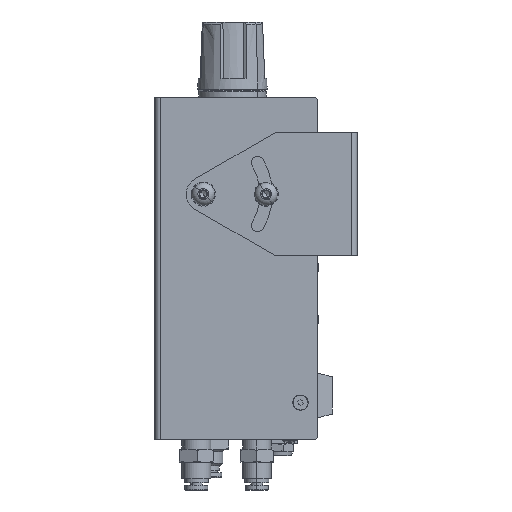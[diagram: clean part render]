
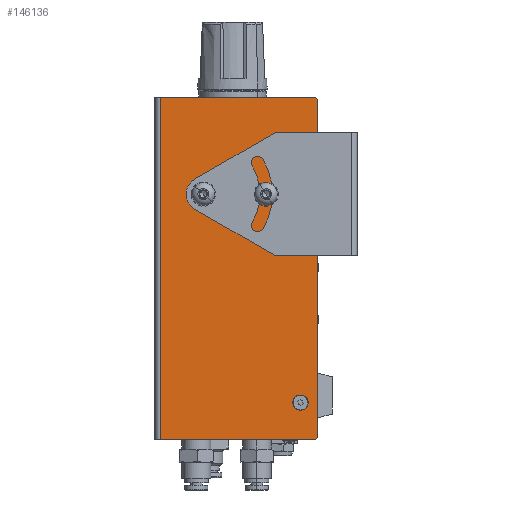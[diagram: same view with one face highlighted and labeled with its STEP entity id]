
A CAD part, left-side view. The second image highlights one B-rep face of the part: STEP entity #146136.
In plain terms, the highlighted planar face has unit normal (-1, 0, 0).
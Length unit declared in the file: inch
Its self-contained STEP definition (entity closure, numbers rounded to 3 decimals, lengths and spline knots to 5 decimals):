
#2859 = EDGE_CURVE ( 'NONE', #103900, #38951, #257376, .T. ) ;
#3213 = CIRCLE ( 'NONE', #179542, 0.09843 ) ;
#7716 = DIRECTION ( 'NONE',  ( 1., 0., 0. ) ) ;
#8575 = DIRECTION ( 'NONE',  ( -1., 0., 0. ) ) ;
#11066 = CARTESIAN_POINT ( 'NONE',  ( -4.16286, -0.43253, 2.11739 ) ) ;
#14063 = EDGE_CURVE ( 'NONE', #267201, #45100, #225865, .T. ) ;
#21953 = CIRCLE ( 'NONE', #59491, 0.12402 ) ;
#22000 = DIRECTION ( 'NONE',  ( 1., 0., 0. ) ) ;
#25754 = CARTESIAN_POINT ( 'NONE',  ( -4.16286, -1.2723, -1.79796 ) ) ;
#30758 = EDGE_CURVE ( 'NONE', #38951, #103900, #21953, .T. ) ;
#31067 = CARTESIAN_POINT ( 'NONE',  ( -4.16286, -0.99119, 2.7576 ) ) ;
#31329 = LINE ( 'NONE', #45038, #257233 ) ;
#37926 = CARTESIAN_POINT ( 'NONE',  ( -4.16286, -0.99119, 2.7576 ) ) ;
#38951 = VERTEX_POINT ( 'NONE', #263057 ) ;
#42377 = DIRECTION ( 'NONE',  ( 1., 0., 0. ) ) ;
#43579 = VERTEX_POINT ( 'NONE', #151161 ) ;
#44258 = EDGE_LOOP ( 'NONE', ( #176999, #74166 ) ) ;
#45038 = CARTESIAN_POINT ( 'NONE',  ( -4.16286, -1.2723, -1.8767 ) ) ;
#45100 = VERTEX_POINT ( 'NONE', #25754 ) ;
#50418 = VERTEX_POINT ( 'NONE', #219586 ) ;
#51514 = DIRECTION ( 'NONE',  ( -1., 0., 0. ) ) ;
#52373 = ORIENTED_EDGE ( 'NONE', *, *, #187222, .T. ) ;
#53806 = AXIS2_PLACEMENT_3D ( 'NONE', #175140, #51514, #150774 ) ;
#57722 = DIRECTION ( 'NONE',  ( 0., 0., 1. ) ) ;
#58589 = CARTESIAN_POINT ( 'NONE',  ( -4.16286, -0.99119, -1.2704 ) ) ;
#59491 = AXIS2_PLACEMENT_3D ( 'NONE', #37926, #181364, #57722 ) ;
#59579 = CARTESIAN_POINT ( 'NONE',  ( -4.16286, -1.2723, -1.8767 ) ) ;
#62824 = CIRCLE ( 'NONE', #163460, 0.12402 ) ;
#63507 = CARTESIAN_POINT ( 'NONE',  ( -4.16286, -0.48315, 2.03298 ) ) ;
#67101 = VERTEX_POINT ( 'NONE', #70055 ) ;
#68326 = ORIENTED_EDGE ( 'NONE', *, *, #177290, .T. ) ;
#68816 = CIRCLE ( 'NONE', #79091, 0.12402 ) ;
#69309 = EDGE_CURVE ( 'NONE', #79141, #50418, #62824, .T. ) ;
#69493 = ORIENTED_EDGE ( 'NONE', *, *, #174460, .T. ) ;
#70055 = CARTESIAN_POINT ( 'NONE',  ( -4.16286, -1.19356, 3.69219 ) ) ;
#70657 = ORIENTED_EDGE ( 'NONE', *, *, #112994, .F. ) ;
#74166 = ORIENTED_EDGE ( 'NONE', *, *, #222690, .T. ) ;
#76940 = LINE ( 'NONE', #99344, #199679 ) ;
#79091 = AXIS2_PLACEMENT_3D ( 'NONE', #80048, #142305, #242523 ) ;
#79141 = VERTEX_POINT ( 'NONE', #175489 ) ;
#79290 = CARTESIAN_POINT ( 'NONE',  ( -4.16286, -1.19356, -1.79796 ) ) ;
#79453 = ORIENTED_EDGE ( 'NONE', *, *, #69309, .F. ) ;
#80048 = CARTESIAN_POINT ( 'NONE',  ( -4.16286, -0.99119, -1.2704 ) ) ;
#80833 = FACE_OUTER_BOUND ( 'NONE', #204134, .T. ) ;
#95795 = VERTEX_POINT ( 'NONE', #211661 ) ;
#99344 = CARTESIAN_POINT ( 'NONE',  ( -4.16286, -1.2723, 3.69219 ) ) ;
#101349 = EDGE_LOOP ( 'NONE', ( #149234, #52373 ) ) ;
#102485 = EDGE_CURVE ( 'NONE', #251618, #95795, #198859, .T. ) ;
#103186 = VERTEX_POINT ( 'NONE', #173346 ) ;
#103900 = VERTEX_POINT ( 'NONE', #256433 ) ;
#111294 = DIRECTION ( 'NONE',  ( 0., 0., 1. ) ) ;
#112889 = DIRECTION ( 'NONE',  ( 0., 0., -1. ) ) ;
#112994 = EDGE_CURVE ( 'NONE', #267201, #95795, #31329, .T. ) ;
#119700 = FACE_BOUND ( 'NONE', #218131, .T. ) ;
#120799 = DIRECTION ( 'NONE',  ( -1., 0., 0. ) ) ;
#122713 = AXIS2_PLACEMENT_3D ( 'NONE', #209776, #7716, #150996 ) ;
#132148 = CARTESIAN_POINT ( 'NONE',  ( -4.16286, -0.38191, 2.2018 ) ) ;
#134056 = AXIS2_PLACEMENT_3D ( 'NONE', #250953, #22000, #168838 ) ;
#136271 = CARTESIAN_POINT ( 'NONE',  ( -4.16286, -1.19356, -1.8767 ) ) ;
#137997 = DIRECTION ( 'NONE',  ( 0., 0., 1. ) ) ;
#142305 = DIRECTION ( 'NONE',  ( -1., 0., 0. ) ) ;
#143393 = DIRECTION ( 'NONE',  ( 0., 0., -1. ) ) ;
#145429 = PLANE ( 'NONE',  #134056 ) ;
#146136 = ADVANCED_FACE ( 'NONE', ( #152059, #148672, #119700, #194079, #80833 ), #145429, .F. ) ;
#147829 = DIRECTION ( 'NONE',  ( 0., 1., 0. ) ) ;
#148672 = FACE_BOUND ( 'NONE', #44258, .T. ) ;
#149234 = ORIENTED_EDGE ( 'NONE', *, *, #257005, .T. ) ;
#150774 = DIRECTION ( 'NONE',  ( 0., 0., -1. ) ) ;
#150996 = DIRECTION ( 'NONE',  ( 0., 0., -1. ) ) ;
#151161 = CARTESIAN_POINT ( 'NONE',  ( -4.16286, 0.51441, 2.05152 ) ) ;
#152059 = FACE_BOUND ( 'NONE', #101349, .T. ) ;
#155268 = VECTOR ( 'NONE', #207571, 39.37008 ) ;
#160544 = DIRECTION ( 'NONE',  ( -1., 0., 0. ) ) ;
#162174 = CARTESIAN_POINT ( 'NONE',  ( -4.16286, 0.58755, 2.11739 ) ) ;
#163460 = AXIS2_PLACEMENT_3D ( 'NONE', #58589, #160544, #137997 ) ;
#165868 = AXIS2_PLACEMENT_3D ( 'NONE', #31067, #8575, #111294 ) ;
#166504 = ORIENTED_EDGE ( 'NONE', *, *, #102485, .T. ) ;
#168838 = DIRECTION ( 'NONE',  ( 0., 0., -1. ) ) ;
#171146 = CIRCLE ( 'NONE', #172708, 0.09843 ) ;
#172708 = AXIS2_PLACEMENT_3D ( 'NONE', #162174, #264996, #265904 ) ;
#173346 = CARTESIAN_POINT ( 'NONE',  ( -4.16286, 0.66068, 2.18326 ) ) ;
#173554 = EDGE_CURVE ( 'NONE', #50418, #79141, #68816, .T. ) ;
#174460 = EDGE_CURVE ( 'NONE', #45100, #226580, #223155, .T. ) ;
#175140 = CARTESIAN_POINT ( 'NONE',  ( -4.16286, -1.19356, 3.61345 ) ) ;
#175489 = CARTESIAN_POINT ( 'NONE',  ( -4.16286, -0.99119, -1.39442 ) ) ;
#176999 = ORIENTED_EDGE ( 'NONE', *, *, #260549, .T. ) ;
#177212 = ORIENTED_EDGE ( 'NONE', *, *, #14063, .T. ) ;
#177290 = EDGE_CURVE ( 'NONE', #67101, #251618, #76940, .T. ) ;
#178706 = CARTESIAN_POINT ( 'NONE',  ( -4.16286, 1.28833, 3.69219 ) ) ;
#179146 = VECTOR ( 'NONE', #201885, 39.37008 ) ;
#179542 = AXIS2_PLACEMENT_3D ( 'NONE', #229098, #42377, #143393 ) ;
#181364 = DIRECTION ( 'NONE',  ( -1., 0., 0. ) ) ;
#185735 = DIRECTION ( 'NONE',  ( 0., 0., -1. ) ) ;
#187222 = EDGE_CURVE ( 'NONE', #43579, #103186, #171146, .T. ) ;
#187232 = ORIENTED_EDGE ( 'NONE', *, *, #30758, .F. ) ;
#187577 = ORIENTED_EDGE ( 'NONE', *, *, #2859, .F. ) ;
#191102 = EDGE_LOOP ( 'NONE', ( #187232, #187577 ) ) ;
#194079 = FACE_BOUND ( 'NONE', #191102, .T. ) ;
#194539 = VERTEX_POINT ( 'NONE', #132148 ) ;
#195706 = ORIENTED_EDGE ( 'NONE', *, *, #173554, .F. ) ;
#198859 = LINE ( 'NONE', #267560, #179146 ) ;
#199679 = VECTOR ( 'NONE', #242783, 39.37008 ) ;
#201727 = EDGE_CURVE ( 'NONE', #226580, #67101, #263556, .T. ) ;
#201885 = DIRECTION ( 'NONE',  ( 0., 0., -1. ) ) ;
#204134 = EDGE_LOOP ( 'NONE', ( #69493, #228323, #68326, #166504, #70657, #177212 ) ) ;
#204585 = AXIS2_PLACEMENT_3D ( 'NONE', #11066, #237407, #112889 ) ;
#207571 = DIRECTION ( 'NONE',  ( 0., 0., 1. ) ) ;
#209776 = CARTESIAN_POINT ( 'NONE',  ( -4.16286, -0.43253, 2.11739 ) ) ;
#211661 = CARTESIAN_POINT ( 'NONE',  ( -4.16286, 1.28833, -1.8767 ) ) ;
#218131 = EDGE_LOOP ( 'NONE', ( #195706, #79453 ) ) ;
#219586 = CARTESIAN_POINT ( 'NONE',  ( -4.16286, -0.99119, -1.14639 ) ) ;
#222690 = EDGE_CURVE ( 'NONE', #263571, #194539, #237150, .T. ) ;
#223155 = LINE ( 'NONE', #59579, #155268 ) ;
#225865 = CIRCLE ( 'NONE', #253969, 0.07874 ) ;
#226580 = VERTEX_POINT ( 'NONE', #264401 ) ;
#228323 = ORIENTED_EDGE ( 'NONE', *, *, #201727, .T. ) ;
#229098 = CARTESIAN_POINT ( 'NONE',  ( -4.16286, 0.58755, 2.11739 ) ) ;
#237150 = CIRCLE ( 'NONE', #122713, 0.09843 ) ;
#237407 = DIRECTION ( 'NONE',  ( 1., 0., 0. ) ) ;
#242523 = DIRECTION ( 'NONE',  ( 0., 0., 1. ) ) ;
#242783 = DIRECTION ( 'NONE',  ( 0., 1., 0. ) ) ;
#245435 = CIRCLE ( 'NONE', #204585, 0.09843 ) ;
#250953 = CARTESIAN_POINT ( 'NONE',  ( -4.16286, -1.2723, -1.8767 ) ) ;
#251618 = VERTEX_POINT ( 'NONE', #178706 ) ;
#253969 = AXIS2_PLACEMENT_3D ( 'NONE', #79290, #120799, #185735 ) ;
#256433 = CARTESIAN_POINT ( 'NONE',  ( -4.16286, -0.99119, 2.63358 ) ) ;
#257005 = EDGE_CURVE ( 'NONE', #103186, #43579, #3213, .T. ) ;
#257233 = VECTOR ( 'NONE', #147829, 39.37008 ) ;
#257376 = CIRCLE ( 'NONE', #165868, 0.12402 ) ;
#260549 = EDGE_CURVE ( 'NONE', #194539, #263571, #245435, .T. ) ;
#263057 = CARTESIAN_POINT ( 'NONE',  ( -4.16286, -0.99119, 2.88161 ) ) ;
#263556 = CIRCLE ( 'NONE', #53806, 0.07874 ) ;
#263571 = VERTEX_POINT ( 'NONE', #63507 ) ;
#264401 = CARTESIAN_POINT ( 'NONE',  ( -4.16286, -1.2723, 3.61345 ) ) ;
#264996 = DIRECTION ( 'NONE',  ( 1., 0., 0. ) ) ;
#265904 = DIRECTION ( 'NONE',  ( 0., 0., -1. ) ) ;
#267201 = VERTEX_POINT ( 'NONE', #136271 ) ;
#267560 = CARTESIAN_POINT ( 'NONE',  ( -4.16286, 1.28833, 3.69219 ) ) ;
